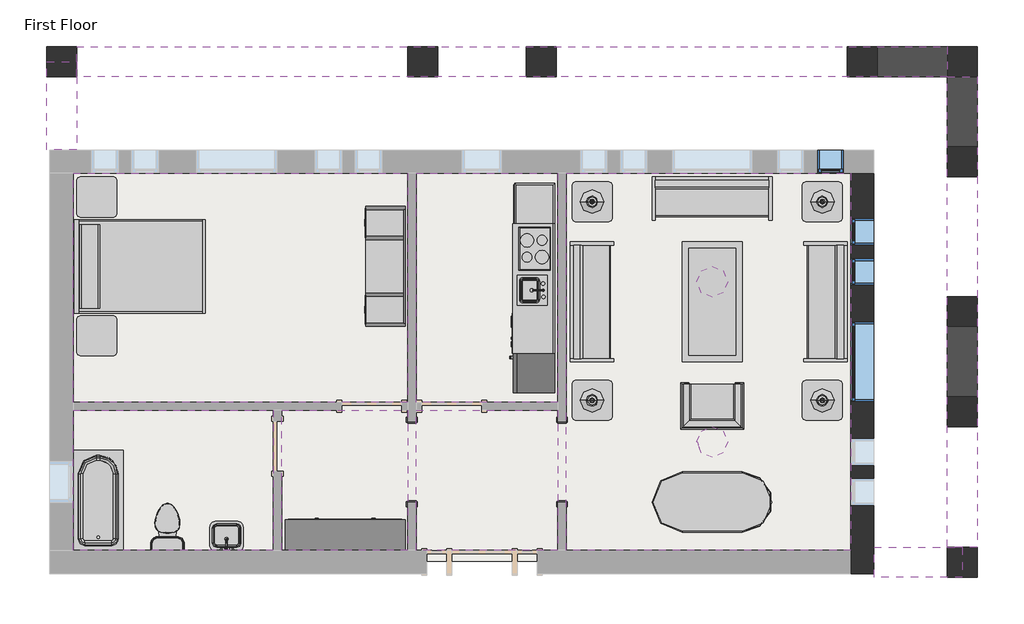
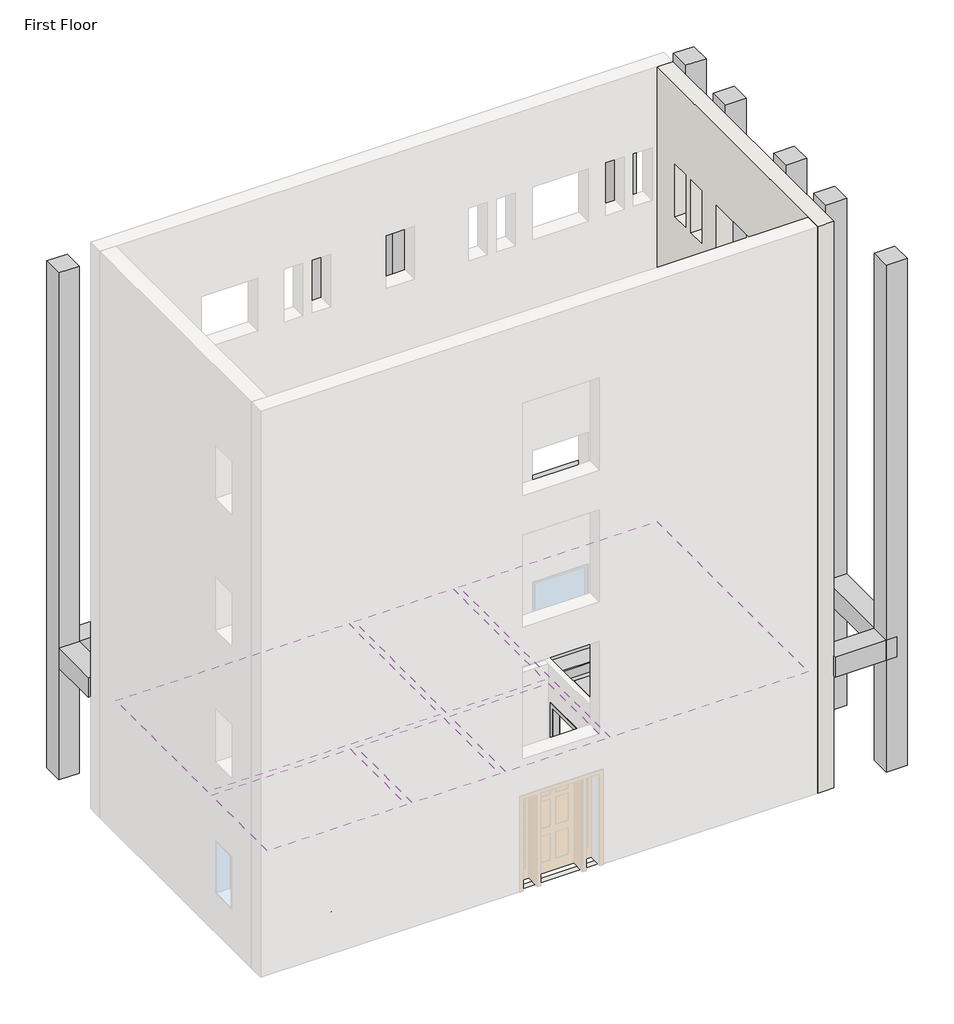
# One storey, part 2 of 2: 15 furniture elements, 9 columns, 7 beams, 6 coverings, 6 light fixtures, 4 windows, 3 flow terminals, 3 proxies, 2 other elements.
"""IFC4 building model written with IfcOpenShell, lengths in millimetres."""

from ifc_helpers import new_model, si_unit, frame, origin, origin_with_axes, place, context, project, spatial, polyline, outline, extrude, faceted_brep, transform, mapped, element, save
from components import proxy_64a468c4, proxy_f44482cc, flow_terminal_0aeb31e3, toilet_domestic_3d_toilet_domestic_3d_f7549cf7, toilet_domestic_3d_toilet_domestic_3d_183bbd19, tub_rectangular_3d_tub_rectangular_3d_5e45a89b, furniture_096e7f55, chair_corbu_chair_corbu_2764bdef, furniture_7c473f12, furniture_ddc78764, furniture_4ef38d96, furniture_cd93a443, furniture_2c34a4f9, furniture_3a588284, furniture_1befe2a2, pendant_disk_c68bffb6, table_lamp_1_100_watt_incandescent_6e8cd8b1, window_da97879f, window_d61ef850, window_6eb97611

model = new_model("IFC4")

# Units and contexts
model_context = context("Model", 3, world=origin())
ifc_project = project(units=[si_unit("LENGTHUNIT", "METRE", prefix="MILLI")], contexts=[model_context])

# Site, building, storey
site = spatial("IfcSite", under=ifc_project)
building = spatial("IfcBuilding", under=site)
storey = spatial("IfcBuildingStorey", under=building, Name="First Floor", Elevation=0.0)

# Beams
placement = place(None, origin())
element("IfcBeam", 1, ObjectType="Concrete-Rectangular Beam : 18 x 18", at=placement, inside=storey, context=model_context, shape_type="Brep", body=[
    faceted_brep([(2093.9410437, 11741.6316867, 3048.0), (2093.9410437, 12198.8316867, 3048.0), (-11164.8589563, 12198.8316867, 3048.0), (-11164.8589563, 11970.2316867, 3048.0), (-11164.8589563, 11741.6316867, 3048.0), (2093.9410437, 11741.6316867, 2590.8), (-11164.8589563, 11741.6316867, 2590.8), (2093.9410437, 12198.8316867, 2590.8), (-11164.8589563, 11970.2316867, 2590.8), (-11164.8589563, 12198.8316867, 2590.8)], [[[0, 1, 2, 3, 4]], [[5, 0, 4, 6]], [[7, 5, 6, 8, 9]], [[1, 7, 9, 2]], [[1, 0, 5, 7]], [[2, 9, 8, 6, 4, 3]]]),
])
element("IfcBeam", 2, ObjectType="Concrete-Rectangular Beam : 18 x 18", at=placement, inside=storey, context=model_context, shape_type="Brep", body=[
    faceted_brep([(2093.9410437, 4578.8316867, 3048.0), (2322.5410437, 4578.8316867, 3048.0), (2551.1410437, 4578.8316867, 3048.0), (2551.1410437, 11741.6316867, 3048.0), (2093.9410437, 11741.6316867, 3048.0), (2093.9410437, 4578.8316867, 2590.8), (2093.9410437, 11741.6316867, 2590.8), (2551.1410437, 4578.8316867, 2590.8), (2322.5410437, 4578.8316867, 2590.8), (2551.1410437, 11741.6316867, 2590.8)], [[[0, 1, 2, 3, 4]], [[5, 0, 4, 6]], [[7, 8, 5, 6, 9]], [[2, 7, 9, 3]], [[3, 9, 6, 4]], [[2, 1, 0, 5, 8, 7]]]),
])
element("IfcBeam", 3, ObjectType="Concrete-Rectangular Beam : 18 x 18", at=placement, inside=storey, context=model_context, shape_type="Brep", body=[
    faceted_brep([(-11164.8589563, 10624.0316867, 3048.0), (-11622.0589563, 10624.0316867, 3048.0), (-11622.0589563, 10624.0316867, 2590.8), (-11164.8589563, 10624.0316867, 2590.8), (-11164.8589563, 11741.6316867, 3048.0), (-11164.8589563, 11970.2316867, 3048.0), (-11622.0589563, 11970.2316867, 3048.0), (-11622.0589563, 11970.2316867, 2590.8), (-11164.8589563, 11970.2316867, 2590.8), (-11164.8589563, 11741.6316867, 2590.8)], [[[0, 1, 2, 3]], [[1, 0, 4, 5, 6]], [[2, 1, 6, 7]], [[3, 2, 7, 8, 9]], [[0, 3, 9, 8, 5, 4]], [[5, 8, 7, 6]]]),
])
element("IfcBeam", 4, ObjectType="Concrete-Rectangular Beam : 18 x 18", at=placement, inside=storey, context=model_context, shape_type="Brep", body=[
    faceted_brep([(976.3410437, 4121.6316867, 3048.0), (976.3410437, 4578.8316867, 3048.0), (976.3410437, 4578.8316867, 2590.8), (976.3410437, 4121.6316867, 2590.8), (2322.5410437, 4121.6316867, 3048.0), (2322.5410437, 4578.8316867, 3048.0), (2093.9410437, 4578.8316867, 3048.0), (2322.5410437, 4578.8316867, 2590.8), (2093.9410437, 4578.8316867, 2590.8), (2322.5410437, 4121.6316867, 2590.8)], [[[0, 1, 2, 3]], [[1, 0, 4, 5, 6]], [[2, 1, 6, 5, 7, 8]], [[3, 2, 8, 7, 9]], [[0, 3, 9, 4]], [[4, 9, 7, 5]]]),
])
element("IfcBeam", 5, ObjectType="Concrete-Rectangular Beam : 18 x 18", at=placement, inside=storey, context=model_context, shape_type="SweptSolid", body=[
    extrude(outline(polyline([(1027.1410437, 11741.6316867), (1027.1410437, 12198.8316867), (2093.9410437, 12198.8316867), (2093.9410437, 11741.6316867), (1027.1410437, 11741.6316867)])), frame((0.0, 0.0, 1066.8), z_axis=(0.0, 0.0, 1.0), x_axis=(1.0, 0.0, 0.0)), (0.0, 0.0, 1.0), 457.2),
])
element("IfcBeam", 6, ObjectType="Concrete-Rectangular Beam : 18 x 18", at=placement, inside=storey, context=model_context, shape_type="SweptSolid", body=[
    extrude(outline(polyline([(2551.1410437, 10674.8316867), (2093.9410437, 10674.8316867), (2093.9410437, 11741.6316867), (2551.1410437, 11741.6316867), (2551.1410437, 10674.8316867)])), frame((0.0, 0.0, 1066.8), z_axis=(0.0, 0.0, 1.0), x_axis=(1.0, 0.0, 0.0)), (0.0, 0.0, 1.0), 457.2),
])
element("IfcBeam", 7, ObjectType="Concrete-Rectangular Beam : 18 x 18", at=placement, inside=storey, context=model_context, shape_type="SweptSolid", body=[
    extrude(outline(polyline([(2551.1410437, 6864.8316867), (2093.9410437, 6864.8316867), (2093.9410437, 7931.6316867), (2551.1410437, 7931.6316867), (2551.1410437, 6864.8316867)])), frame((0.0, 0.0, 1066.8), z_axis=(0.0, 0.0, 1.0), x_axis=(1.0, 0.0, 0.0)), (0.0, 0.0, 1.0), 457.2),
])

# Proxies
proxy_shape = proxy_64a468c4(model_context)
element("IfcBuildingElementProxy", 8, Name="Kitchenette - Medium : 8'6\"", ObjectType="Kitchenette - Medium : 8'6\"", at=placement, inside=storey, context=model_context, shape_type="MappedRepresentation", body=[
    mapped(proxy_shape, transform((-3887.7589563, 8837.7956433, 0.0), x_axis=(0.0, -1.0, 0.0), y_axis=(1.0, 0.0, 0.0), z_axis=(0.0, 0.0, 1.0))),
])
proxy_2_shape = proxy_f44482cc(model_context)
element("IfcBuildingElementProxy", 9, Name="Opening-Cased : 48\" x 84\"", ObjectType="Opening-Cased : 48\" x 84\"", at=placement, inside=storey, context=model_context, shape_type="MappedRepresentation", body=[
    mapped(proxy_2_shape, transform((-3773.4589563, 5882.4203434, 0.0), x_axis=(0.0, 1.0, 0.0), y_axis=(-1.0, 0.0, 0.0), z_axis=(0.0, 0.0, 1.0))),
])
element("IfcBuildingElementProxy", 10, Name="Opening-Cased : 48\" x 84\"", ObjectType="Opening-Cased : 48\" x 84\"", at=placement, inside=storey, context=model_context, shape_type="MappedRepresentation", body=[
    mapped(proxy_2_shape, transform((-6059.4589563, 5866.04303, 0.0), x_axis=(0.0, -1.0, 0.0), y_axis=(1.0, 0.0, 0.0), z_axis=(0.0, 0.0, 1.0))),
])

# Columns
element("IfcColumn", 11, ObjectType="Concrete-Square-Column : 18 x 18", at=placement, inside=storey, context=model_context, shape_type="Brep", body=[
    faceted_brep([(1027.1410437, 12198.8316867, 11734.8), (569.9410437, 12198.8316867, 11734.8), (569.9410437, 11741.6316867, 11734.8), (1027.1410437, 11741.6316867, 11734.8), (1027.1410437, 12198.8316867, 0.0), (1027.1410437, 11741.6316867, 0.0), (569.9410437, 11741.6316867, 0.0), (569.9410437, 12198.8316867, 0.0), (1027.1410437, 12198.8316867, 9144.0), (1027.1410437, 12198.8316867, 8686.8), (1027.1410437, 12198.8316867, 6096.0), (1027.1410437, 12198.8316867, 5638.8), (569.9410437, 12198.8316867, 5638.8), (569.9410437, 12198.8316867, 6096.0), (569.9410437, 12198.8316867, 8686.8), (569.9410437, 12198.8316867, 9144.0), (569.9410437, 11741.6316867, 5638.8), (569.9410437, 11741.6316867, 6096.0), (569.9410437, 11741.6316867, 8686.8), (569.9410437, 11741.6316867, 9144.0), (1027.1410437, 11741.6316867, 5638.8), (1027.1410437, 11741.6316867, 6096.0), (1027.1410437, 11741.6316867, 8686.8), (1027.1410437, 11741.6316867, 9144.0)], [[[0, 1, 2, 3]], [[4, 5, 6, 7]], [[1, 0, 8, 9, 10, 11, 4, 7, 12, 13, 14, 15]], [[2, 1, 15, 14, 13, 12, 7, 6, 16, 17, 18, 19]], [[3, 2, 19, 18, 17, 16, 6, 5, 20, 21, 22, 23]], [[0, 3, 23, 22, 21, 20, 5, 4, 11, 10, 9, 8]]]),
])
element("IfcColumn", 12, ObjectType="Concrete-Square-Column : 18 x 18", at=placement, inside=storey, context=model_context, shape_type="Brep", body=[
    faceted_brep([(2551.1410437, 10674.8316867, 11734.8), (2093.9410437, 10674.8316867, 11734.8), (2093.9410437, 10217.6316867, 11734.8), (2551.1410437, 10217.6316867, 11734.8), (2551.1410437, 10674.8316867, 0.0), (2551.1410437, 10217.6316867, 0.0), (2093.9410437, 10217.6316867, 0.0), (2093.9410437, 10674.8316867, 0.0), (2551.1410437, 10217.6316867, 9144.0), (2551.1410437, 10217.6316867, 8686.8), (2551.1410437, 10217.6316867, 6096.0), (2551.1410437, 10217.6316867, 5638.8), (2551.1410437, 10674.8316867, 5638.8), (2551.1410437, 10674.8316867, 6096.0), (2551.1410437, 10674.8316867, 8686.8), (2551.1410437, 10674.8316867, 9144.0), (2093.9410437, 10217.6316867, 9144.0), (2093.9410437, 10217.6316867, 8686.8), (2093.9410437, 10217.6316867, 6096.0), (2093.9410437, 10217.6316867, 5638.8), (2093.9410437, 10674.8316867, 9144.0), (2093.9410437, 10674.8316867, 8686.8), (2093.9410437, 10674.8316867, 6096.0), (2093.9410437, 10674.8316867, 5638.8)], [[[0, 1, 2, 3]], [[4, 5, 6, 7]], [[3, 8, 9, 10, 11, 5, 4, 12, 13, 14, 15, 0]], [[2, 16, 17, 18, 19, 6, 5, 11, 10, 9, 8, 3]], [[1, 20, 21, 22, 23, 7, 6, 19, 18, 17, 16, 2]], [[0, 15, 14, 13, 12, 4, 7, 23, 22, 21, 20, 1]]]),
])
element("IfcColumn", 13, ObjectType="Concrete-Square-Column : 18 x 18", at=placement, inside=storey, context=model_context, shape_type="SweptSolid", body=[
    extrude(outline(polyline([(-11164.8589563, 12198.8316867), (-11164.8589563, 11741.6316867), (-11622.0589563, 11741.6316867), (-11622.0589563, 12198.8316867), (-11164.8589563, 12198.8316867)])), origin_with_axes(), (0.0, 0.0, 1.0), 11734.8),
])
element("IfcColumn", 14, ObjectType="Concrete-Square-Column : 18 x 18", at=placement, inside=storey, context=model_context, shape_type="SweptSolid", body=[
    extrude(outline(polyline([(2551.1410437, 4578.8316867), (2551.1410437, 4121.6316867), (2093.9410437, 4121.6316867), (2093.9410437, 4578.8316867), (2551.1410437, 4578.8316867)])), origin_with_axes(), (0.0, 0.0, 1.0), 11734.8),
])
element("IfcColumn", 15, ObjectType="Concrete-Square-Column : 18 x 18", at=placement, inside=storey, context=model_context, shape_type="SweptSolid", body=[
    extrude(outline(polyline([(2551.1410437, 12198.8316867), (2551.1410437, 11741.6316867), (2093.9410437, 11741.6316867), (2093.9410437, 12198.8316867), (2551.1410437, 12198.8316867)])), origin_with_axes(), (0.0, 0.0, 1.0), 11734.8),
])
element("IfcColumn", 16, ObjectType="Concrete-Square-Column : 18 x 18", at=placement, inside=storey, context=model_context, shape_type="Brep", body=[
    faceted_brep([(-3862.3589563, 12198.8316867, 11734.8), (-4319.5589563, 12198.8316867, 11734.8), (-4319.5589563, 11741.6316867, 11734.8), (-3862.3589563, 11741.6316867, 11734.8), (-3862.3589563, 12198.8316867, 0.0), (-3862.3589563, 11741.6316867, 0.0), (-4319.5589563, 11741.6316867, 0.0), (-4319.5589563, 12198.8316867, 0.0), (-3862.3589563, 12198.8316867, 9144.0), (-3862.3589563, 12198.8316867, 8686.8), (-3862.3589563, 12198.8316867, 6096.0), (-3862.3589563, 12198.8316867, 5638.8), (-4319.5589563, 12198.8316867, 5638.8), (-4319.5589563, 12198.8316867, 6096.0), (-4319.5589563, 12198.8316867, 8686.8), (-4319.5589563, 12198.8316867, 9144.0), (-4319.5589563, 11741.6316867, 5638.8), (-4319.5589563, 11741.6316867, 6096.0), (-4319.5589563, 11741.6316867, 8686.8), (-4319.5589563, 11741.6316867, 9144.0), (-3862.3589563, 11741.6316867, 5638.8), (-3862.3589563, 11741.6316867, 6096.0), (-3862.3589563, 11741.6316867, 8686.8), (-3862.3589563, 11741.6316867, 9144.0)], [[[0, 1, 2, 3]], [[4, 5, 6, 7]], [[1, 0, 8, 9, 10, 11, 4, 7, 12, 13, 14, 15]], [[2, 1, 15, 14, 13, 12, 7, 6, 16, 17, 18, 19]], [[3, 2, 19, 18, 17, 16, 6, 5, 20, 21, 22, 23]], [[0, 3, 23, 22, 21, 20, 5, 4, 11, 10, 9, 8]]]),
])
element("IfcColumn", 17, ObjectType="Concrete-Square-Column : 18 x 18", at=placement, inside=storey, context=model_context, shape_type="Brep", body=[
    faceted_brep([(-6122.9589563, 12198.8316867, 11734.8), (-6122.9589563, 11741.6316867, 11734.8), (-5665.7589563, 11741.6316867, 11734.8), (-5665.7589563, 12198.8316867, 11734.8), (-6122.9589563, 12198.8316867, 0.0), (-5665.7589563, 12198.8316867, 0.0), (-5665.7589563, 11741.6316867, 0.0), (-6122.9589563, 11741.6316867, 0.0), (-5665.7589563, 12198.8316867, 9144.0), (-5665.7589563, 12198.8316867, 8686.8), (-5665.7589563, 12198.8316867, 6096.0), (-5665.7589563, 12198.8316867, 5638.8), (-6122.9589563, 12198.8316867, 5638.8), (-6122.9589563, 12198.8316867, 6096.0), (-6122.9589563, 12198.8316867, 8686.8), (-6122.9589563, 12198.8316867, 9144.0), (-5665.7589563, 11741.6316867, 9144.0), (-5665.7589563, 11741.6316867, 8686.8), (-5665.7589563, 11741.6316867, 6096.0), (-5665.7589563, 11741.6316867, 5638.8), (-6122.9589563, 11741.6316867, 9144.0), (-6122.9589563, 11741.6316867, 8686.8), (-6122.9589563, 11741.6316867, 6096.0), (-6122.9589563, 11741.6316867, 5638.8)], [[[0, 1, 2, 3]], [[4, 5, 6, 7]], [[3, 8, 9, 10, 11, 5, 4, 12, 13, 14, 15, 0]], [[2, 16, 17, 18, 19, 6, 5, 11, 10, 9, 8, 3]], [[1, 20, 21, 22, 23, 7, 6, 19, 18, 17, 16, 2]], [[0, 15, 14, 13, 12, 4, 7, 23, 22, 21, 20, 1]]]),
])
element("IfcColumn", 18, ObjectType="Concrete-Square-Column : 18 x 18", at=placement, inside=storey, context=model_context, shape_type="Brep", body=[
    faceted_brep([(2551.1410437, 6864.8316867, 11734.8), (2093.9410437, 6864.8316867, 11734.8), (2093.9410437, 6407.6316867, 11734.8), (2551.1410437, 6407.6316867, 11734.8), (2551.1410437, 6864.8316867, 0.0), (2551.1410437, 6407.6316867, 0.0), (2093.9410437, 6407.6316867, 0.0), (2093.9410437, 6864.8316867, 0.0), (2551.1410437, 6407.6316867, 9144.0), (2551.1410437, 6407.6316867, 8686.8), (2551.1410437, 6407.6316867, 6096.0), (2551.1410437, 6407.6316867, 5638.8), (2551.1410437, 6864.8316867, 5638.8), (2551.1410437, 6864.8316867, 6096.0), (2551.1410437, 6864.8316867, 8686.8), (2551.1410437, 6864.8316867, 9144.0), (2093.9410437, 6407.6316867, 9144.0), (2093.9410437, 6407.6316867, 8686.8), (2093.9410437, 6407.6316867, 6096.0), (2093.9410437, 6407.6316867, 5638.8), (2093.9410437, 6864.8316867, 9144.0), (2093.9410437, 6864.8316867, 8686.8), (2093.9410437, 6864.8316867, 6096.0), (2093.9410437, 6864.8316867, 5638.8)], [[[0, 1, 2, 3]], [[4, 5, 6, 7]], [[3, 8, 9, 10, 11, 5, 4, 12, 13, 14, 15, 0]], [[2, 16, 17, 18, 19, 6, 5, 11, 10, 9, 8, 3]], [[1, 20, 21, 22, 23, 7, 6, 19, 18, 17, 16, 2]], [[0, 15, 14, 13, 12, 4, 7, 23, 22, 21, 20, 1]]]),
])
element("IfcColumn", 19, ObjectType="Concrete-Square-Column : 18 x 18", at=placement, inside=storey, context=model_context, shape_type="Brep", body=[
    faceted_brep([(2551.1410437, 8388.8316867, 11734.8), (2093.9410437, 8388.8316867, 11734.8), (2093.9410437, 7931.6316867, 11734.8), (2551.1410437, 7931.6316867, 11734.8), (2551.1410437, 8388.8316867, 0.0), (2551.1410437, 7931.6316867, 0.0), (2093.9410437, 7931.6316867, 0.0), (2093.9410437, 8388.8316867, 0.0), (2551.1410437, 8388.8316867, 9144.0), (2551.1410437, 8388.8316867, 8686.8), (2551.1410437, 8388.8316867, 6096.0), (2551.1410437, 8388.8316867, 5638.8), (2093.9410437, 8388.8316867, 5638.8), (2093.9410437, 8388.8316867, 6096.0), (2093.9410437, 8388.8316867, 8686.8), (2093.9410437, 8388.8316867, 9144.0), (2093.9410437, 7931.6316867, 5638.8), (2093.9410437, 7931.6316867, 6096.0), (2093.9410437, 7931.6316867, 8686.8), (2093.9410437, 7931.6316867, 9144.0), (2551.1410437, 7931.6316867, 5638.8), (2551.1410437, 7931.6316867, 6096.0), (2551.1410437, 7931.6316867, 8686.8), (2551.1410437, 7931.6316867, 9144.0)], [[[0, 1, 2, 3]], [[4, 5, 6, 7]], [[1, 0, 8, 9, 10, 11, 4, 7, 12, 13, 14, 15]], [[2, 1, 15, 14, 13, 12, 7, 6, 16, 17, 18, 19]], [[3, 2, 19, 18, 17, 16, 6, 5, 20, 21, 22, 23]], [[0, 3, 23, 22, 21, 20, 5, 4, 11, 10, 9, 8]]]),
])

# Coverings
element("IfcCovering", 20, ObjectType="GWB on Mtl. Stud", at=placement, inside=storey, context=model_context, shape_type="SweptSolid", body=[
    extrude(outline(polyline([(-11217.2464563, 10270.0191867), (-6122.9589563, 10270.0191867), (-6122.9589563, 6787.0441867), (-11217.2464563, 6787.0441867), (-11217.2464563, 10270.0191867)])), frame((0.0, 0.0, 2590.8), z_axis=(0.0, 0.0, 1.0), x_axis=(1.0, 0.0, 0.0)), (0.0, 0.0, 1.0), 107.95),
])
element("IfcCovering", 21, ObjectType="GWB on Mtl. Stud", at=placement, inside=storey, context=model_context, shape_type="SweptSolid", body=[
    extrude(outline(polyline([(-5995.9589563, 6787.0441867), (-5995.9589563, 10270.0191867), (-3836.9589563, 10270.0191867), (-3836.9589563, 6787.0441867), (-5995.9589563, 6787.0441867)])), frame((0.0, 0.0, 2590.8), z_axis=(0.0, 0.0, 1.0), x_axis=(1.0, 0.0, 0.0)), (0.0, 0.0, 1.0), 107.95),
])
element("IfcCovering", 22, ObjectType="GWB on Mtl. Stud", at=placement, inside=storey, context=model_context, shape_type="SweptSolid", body=[
    extrude(outline(polyline([(-3709.9589563, 4526.4441867), (-3709.9589563, 10270.0191867), (622.3285437, 10270.0191867), (622.3285437, 4526.4441867), (-3709.9589563, 4526.4441867)])), frame((0.0, 0.0, 2590.8), z_axis=(0.0, 0.0, 1.0), x_axis=(1.0, 0.0, 0.0)), (0.0, 0.0, 1.0), 107.95),
])
element("IfcCovering", 23, ObjectType="GWB on Mtl. Stud", at=placement, inside=storey, context=model_context, shape_type="SweptSolid", body=[
    extrude(outline(polyline([(-3836.9589563, 4526.4441867), (-5995.9589563, 4526.4441867), (-5995.9589563, 6660.0441867), (-3836.9589563, 6660.0441867), (-3836.9589563, 4526.4441867)])), frame((0.0, 0.0, 2590.8), z_axis=(0.0, 0.0, 1.0), x_axis=(1.0, 0.0, 0.0)), (0.0, 0.0, 1.0), 107.95),
])
element("IfcCovering", 24, ObjectType="GWB on Mtl. Stud", at=placement, inside=storey, context=model_context, shape_type="SweptSolid", body=[
    extrude(outline(polyline([(-6122.9589563, 4526.4441867), (-8042.2464563, 4526.4441867), (-8042.2464563, 6660.0441867), (-6122.9589563, 6660.0441867), (-6122.9589563, 4526.4441867)])), frame((0.0, 0.0, 2590.8), z_axis=(0.0, 0.0, 1.0), x_axis=(1.0, 0.0, 0.0)), (0.0, 0.0, 1.0), 107.95),
])
element("IfcCovering", 25, ObjectType="GWB on Mtl. Stud", at=placement, inside=storey, context=model_context, shape_type="SweptSolid", body=[
    extrude(outline(polyline([(-8169.2464563, 6660.0441867), (-8169.2464563, 4526.4441867), (-11217.2464563, 4526.4441867), (-11217.2464563, 6660.0441867), (-8169.2464563, 6660.0441867)])), frame((0.0, 0.0, 2590.8), z_axis=(0.0, 0.0, 1.0), x_axis=(1.0, 0.0, 0.0)), (0.0, 0.0, 1.0), 107.95),
])

# Flow terminals
flow_terminal_shape = flow_terminal_0aeb31e3(model_context)
element("IfcFlowTerminal", 26, ObjectType="Sink Vanity-Square : 24\" x 19\"", at=placement, inside=storey, context=model_context, shape_type="MappedRepresentation", body=[
    mapped(flow_terminal_shape, transform((-8864.7572157, 4706.5895878, 0.0), x_axis=(-1.0, 0.0, 0.0), y_axis=(0.0, -1.0, 0.0), z_axis=(0.0, 0.0, 1.0))),
])
toilet_domestic_3d_toilet_domestic_3d_shape = toilet_domestic_3d_toilet_domestic_3d_f7549cf7(model_context)
toilet_domestic_3d_toilet_domestic_3d_2_shape = toilet_domestic_3d_toilet_domestic_3d_183bbd19(model_context)
element("IfcFlowTerminal", 27, ObjectType="Toilet-Domestic-3D : Toilet-Domestic-3D", at=placement, inside=storey, context=model_context, shape_type="MappedRepresentation", body=[
    mapped(toilet_domestic_3d_toilet_domestic_3d_shape, transform((-9782.1466587, 4940.866411, 0.0), x_axis=(-1.0000000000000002, 0.0, 0.0), y_axis=(0.0, -1.0000000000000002, 0.0), z_axis=(0.0, 0.0, 1.0))),
    mapped(toilet_domestic_3d_toilet_domestic_3d_2_shape, transform((-9782.1466587, 4940.866411, 0.0), x_axis=(-1.0000000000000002, 0.0, 0.0), y_axis=(0.0, -1.0000000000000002, 0.0), z_axis=(0.0, 0.0, 1.0))),
])
tub_rectangular_3d_tub_rectangular_3d_shape = tub_rectangular_3d_tub_rectangular_3d_5e45a89b(model_context)
element("IfcFlowTerminal", 28, ObjectType="Tub-Rectangular-3D : Tub-Rectangular-3D", at=placement, inside=storey, context=model_context, shape_type="MappedRepresentation", body=[
    mapped(tub_rectangular_3d_tub_rectangular_3d_shape, transform((-11393.4589563, 5637.0471554, 0.0), x_axis=(0.0, 1.0, 0.0), y_axis=(-1.0, 0.0, 0.0), z_axis=(0.0, 0.0, 1.0))),
])

# Furniture
furniture_shape = furniture_096e7f55(model_context)
element("IfcFurniture", 29, ObjectType="Bed-Shaker : Double 56\" x 78\"", at=placement, inside=storey, context=model_context, shape_type="MappedRepresentation", body=[
    mapped(furniture_shape, transform((-11183.1982802, 8871.8755561, 0.0), x_axis=(0.0, 1.0, 0.0), y_axis=(-1.0, 0.0, 0.0), z_axis=(0.0, 0.0, 1.0))),
])
chair_corbu_chair_corbu_shape = chair_corbu_chair_corbu_2764bdef(model_context)
element("IfcFurniture", 30, ObjectType="Chair-Corbu : Chair-Corbu", at=placement, inside=storey, context=model_context, shape_type="MappedRepresentation", body=[
    mapped(chair_corbu_chair_corbu_shape, transform((-914.0851858, 7193.4962359, 0.0), x_axis=(-1.0, 0.0, 0.0), y_axis=(0.0, -1.0, 0.0), z_axis=(0.0, 0.0, 1.0))),
])
furniture_2_shape = furniture_7c473f12(model_context)
element("IfcFurniture", 31, ObjectType="Dresser : 72\" x 60\" x 18\"", at=placement, inside=storey, context=model_context, shape_type="MappedRepresentation", body=[
    mapped(furniture_2_shape, transform((-7344.6522161, 4404.5812326, 0.0), x_axis=(-1.0, 0.0, 0.0), y_axis=(0.0, -1.0, 0.0), z_axis=(0.0, 0.0, 1.0))),
])
furniture_3_shape = furniture_ddc78764(model_context)
element("IfcFurniture", 32, ObjectType="Entertainment Center : 72\" x 72\" x 24\"", at=placement, inside=storey, context=model_context, shape_type="MappedRepresentation", body=[
    mapped(furniture_3_shape, transform((-6059.4589563, 8852.8255561, 0.0), x_axis=(0.0, -1.0, 0.0), y_axis=(1.0, 0.0, 0.0), z_axis=(0.0, 0.0, 1.0))),
])
furniture_4_shape = furniture_4ef38d96(model_context)
element("IfcFurniture", 33, ObjectType="Sofa : 72\"", at=placement, inside=storey, context=model_context, shape_type="MappedRepresentation", body=[
    mapped(furniture_4_shape, transform((-1557.8294481, 9741.2775883, 0.0), x_axis=(1.0, 0.0, 0.0), y_axis=(0.0, 1.0, 0.0), z_axis=(0.0, 0.0, 1.0))),
])
element("IfcFurniture", 34, ObjectType="Sofa : 72\"", at=placement, inside=storey, context=model_context, shape_type="MappedRepresentation", body=[
    mapped(furniture_4_shape, transform((93.5869453, 8383.0021785, 0.0), x_axis=(0.0, -1.0, 0.0), y_axis=(1.0, 0.0, 0.0), z_axis=(0.0, 0.0, 1.0))),
])
element("IfcFurniture", 35, ObjectType="Sofa : 72\"", at=placement, inside=storey, context=model_context, shape_type="MappedRepresentation", body=[
    mapped(furniture_4_shape, transform((-3170.104858, 8242.2611949, 0.0), x_axis=(0.0, 1.0, 0.0), y_axis=(-1.0, 0.0, 0.0), z_axis=(0.0, 0.0, 1.0))),
])
furniture_5_shape = furniture_cd93a443(model_context)
element("IfcFurniture", 36, ObjectType="Table-Coffee : 36\" x 72\" x 18\"", at=placement, inside=storey, context=model_context, shape_type="MappedRepresentation", body=[
    mapped(furniture_5_shape, transform((-1582.6700341, 8330.8974534, 0.0), x_axis=(0.0, -1.0, 0.0), y_axis=(1.0, 0.0, 0.0), z_axis=(0.0, 0.0, 1.0))),
])
furniture_6_shape = furniture_2c34a4f9(model_context)
element("IfcFurniture", 37, ObjectType="Table-Dining Oval : 36\" x 72\"", at=placement, inside=storey, context=model_context, shape_type="MappedRepresentation", body=[
    mapped(furniture_6_shape, transform((-1085.6392842, 5622.7300473, 0.0), x_axis=(1.0, 0.0, 0.0), y_axis=(0.0, 1.0, 0.0), z_axis=(0.0, 0.0, 1.0))),
])
furniture_7_shape = furniture_3a588284(model_context)
element("IfcFurniture", 38, ObjectType="Table-End : 24\" x 24\"", at=placement, inside=storey, context=model_context, shape_type="MappedRepresentation", body=[
    mapped(furniture_7_shape, transform((-119.5925866, 9684.2316867, 0.0), x_axis=(1.0, 0.0, 0.0), y_axis=(0.0, 1.0, 0.0), z_axis=(0.0, 0.0, 1.0))),
])
element("IfcFurniture", 39, ObjectType="Table-End : 24\" x 24\"", at=placement, inside=storey, context=model_context, shape_type="MappedRepresentation", body=[
    mapped(furniture_7_shape, transform((-3624.7925866, 9684.2316867, 0.0), x_axis=(1.0, 0.0, 0.0), y_axis=(0.0, 1.0, 0.0), z_axis=(0.0, 0.0, 1.0))),
])
element("IfcFurniture", 40, ObjectType="Table-End : 24\" x 24\"", at=placement, inside=storey, context=model_context, shape_type="MappedRepresentation", body=[
    mapped(furniture_7_shape, transform((-3624.7925866, 6660.0441867, 0.0), x_axis=(1.0, 0.0, 0.0), y_axis=(0.0, 1.0, 0.0), z_axis=(0.0, 0.0, 1.0))),
])
element("IfcFurniture", 41, ObjectType="Table-End : 24\" x 24\"", at=placement, inside=storey, context=model_context, shape_type="MappedRepresentation", body=[
    mapped(furniture_7_shape, transform((-119.5925866, 6660.0441867, 0.0), x_axis=(1.0, 0.0, 0.0), y_axis=(0.0, 1.0, 0.0), z_axis=(0.0, 0.0, 1.0))),
])
element("IfcFurniture", 42, ObjectType="Table-End : 24\" x 24\"", at=placement, inside=storey, context=model_context, shape_type="MappedRepresentation", body=[
    mapped(furniture_7_shape, transform((-11164.2346356, 9756.0737357, 0.0), x_axis=(1.0, 0.0, 0.0), y_axis=(0.0, 1.0, 0.0), z_axis=(0.0, 0.0, 1.0))),
])
furniture_8_shape = furniture_1befe2a2(model_context)
element("IfcFurniture", 43, ObjectType="Table-End : 24\" x 24\"", at=placement, inside=storey, context=model_context, shape_type="MappedRepresentation", body=[
    mapped(furniture_8_shape, transform((-11164.2346356, 7949.5773764, 0.0), x_axis=(1.0, 0.0, 0.0), y_axis=(0.0, 1.0, 0.0), z_axis=(0.0, 0.0, 1.0))),
])

# Light fixtures
pendant_disk_shape = pendant_disk_c68bffb6(model_context)
element("IfcLightFixture", 44, ObjectType="Pendant - Disk : 150 watt Incandescant", at=placement, inside=storey, context=model_context, shape_type="MappedRepresentation", body=[
    mapped(pendant_disk_shape, transform((-1487.4589563, 8617.4316867, 152.3999938), x_axis=(1.0, 0.0, 0.0), y_axis=(0.0, 1.0, 0.0), z_axis=(0.0, 0.0, 1.0))),
])
element("IfcLightFixture", 45, ObjectType="Pendant - Disk : 150 watt Incandescant", at=placement, inside=storey, context=model_context, shape_type="MappedRepresentation", body=[
    mapped(pendant_disk_shape, transform((-1487.4589563, 6179.0316867, 152.3999938), x_axis=(1.0, 0.0, 0.0), y_axis=(0.0, 1.0, 0.0), z_axis=(0.0, 0.0, 1.0))),
])
table_lamp_1_100_watt_incandescent_shape = table_lamp_1_100_watt_incandescent_6e8cd8b1(model_context)
element("IfcLightFixture", 46, ObjectType="Table Lamp 1 : 100 watt Incandescent", at=placement, inside=storey, context=model_context, shape_type="MappedRepresentation", body=[
    mapped(table_lamp_1_100_watt_incandescent_shape, transform((188.9410437, 6812.4441867, 381.0), x_axis=(1.0, 0.0, 0.0), y_axis=(0.0, 1.0, 0.0), z_axis=(0.0, 0.0, 1.0))),
])
element("IfcLightFixture", 47, ObjectType="Table Lamp 1 : 100 watt Incandescent", at=placement, inside=storey, context=model_context, shape_type="MappedRepresentation", body=[
    mapped(table_lamp_1_100_watt_incandescent_shape, transform((-3316.2589563, 9836.6316867, 381.0), x_axis=(1.0, 0.0, 0.0), y_axis=(0.0, 1.0, 0.0), z_axis=(0.0, 0.0, 1.0))),
])
element("IfcLightFixture", 48, ObjectType="Table Lamp 1 : 100 watt Incandescent", at=placement, inside=storey, context=model_context, shape_type="MappedRepresentation", body=[
    mapped(table_lamp_1_100_watt_incandescent_shape, transform((188.9410437, 9836.6316867, 381.0), x_axis=(1.0, 0.0, 0.0), y_axis=(0.0, 1.0, 0.0), z_axis=(0.0, 0.0, 1.0))),
])
element("IfcLightFixture", 49, ObjectType="Table Lamp 1 : 100 watt Incandescent", at=placement, inside=storey, context=model_context, shape_type="MappedRepresentation", body=[
    mapped(table_lamp_1_100_watt_incandescent_shape, transform((-3316.2589563, 6812.4441867, 381.0), x_axis=(1.0, 0.0, 0.0), y_axis=(0.0, 1.0, 0.0), z_axis=(0.0, 0.0, 1.0))),
])

# Slab
element("IfcSlab", 50, ObjectType="LW Concrete on Metal Deck", at=placement, inside=storey, context=model_context, shape_type="SweptSolid", body=[
    extrude(outline(polyline([(787.4285437, 10435.1191867), (787.4285437, 4361.3441867), (-11382.3464563, 4361.3441867), (-11382.3464563, 10435.1191867), (787.4285437, 10435.1191867)])), frame((0.0, 0.0, -104.775), z_axis=(0.0, 0.0, 1.0), x_axis=(1.0, 0.0, 0.0)), (0.0, 0.0, 1.0), 104.775),
])

# Wall
element("IfcWall", 51, ObjectType="Exterior - Brick on Mtl. Stud", at=placement, inside=storey, context=model_context, shape_type="Brep", body=[
    faceted_brep([(622.3285437, 10270.0191867, 13106.4), (622.3285437, 4526.4441867, 13106.4), (622.3285437, 4174.0191867, 13106.4), (974.7535437, 4174.0191867, 13106.4), (974.7535437, 10270.0191867, 13106.4), (622.3285437, 10270.0191867, 0.0), (622.3285437, 4526.4441867, 0.0), (622.3285437, 4361.3441867, 0.0), (622.3285437, 4174.0191867, 0.0), (622.3285437, 5823.4316867, 8229.6), (622.3285437, 5823.4316867, 7010.4), (622.3285437, 6229.8316867, 7010.4), (622.3285437, 6229.8316867, 8229.6), (622.3285437, 5213.8316867, 8229.6), (622.3285437, 5213.8316867, 7010.4), (622.3285437, 5620.2316867, 7010.4), (622.3285437, 5620.2316867, 8229.6), (622.3285437, 8973.0316867, 8229.6), (622.3285437, 8566.6316867, 8229.6), (622.3285437, 8566.6316867, 7010.4), (622.3285437, 8973.0316867, 7010.4), (622.3285437, 9582.6316867, 8229.6), (622.3285437, 9176.2316867, 8229.6), (622.3285437, 9176.2316867, 7010.4), (622.3285437, 9582.6316867, 7010.4), (622.3285437, 8007.8316867, 8229.6), (622.3285437, 6788.6316867, 8229.6), (622.3285437, 6788.6316867, 7010.4), (622.3285437, 8007.8316867, 7010.4), (622.3285437, 5823.4316867, 5181.6), (622.3285437, 5823.4316867, 3962.4), (622.3285437, 6229.8316867, 3962.4), (622.3285437, 6229.8316867, 5181.6), (622.3285437, 5213.8316867, 5181.6), (622.3285437, 5213.8316867, 3962.4), (622.3285437, 5620.2316867, 3962.4), (622.3285437, 5620.2316867, 5181.6), (622.3285437, 8973.0316867, 5181.6), (622.3285437, 8566.6316867, 5181.6), (622.3285437, 8566.6316867, 3962.4), (622.3285437, 8973.0316867, 3962.4), (622.3285437, 9582.6316867, 5181.6), (622.3285437, 9176.2316867, 5181.6), (622.3285437, 9176.2316867, 3962.4), (622.3285437, 9582.6316867, 3962.4), (622.3285437, 8007.8316867, 5181.6), (622.3285437, 6788.6316867, 5181.6), (622.3285437, 6788.6316867, 3962.4), (622.3285437, 8007.8316867, 3962.4), (622.3285437, 5823.4316867, 11277.6), (622.3285437, 5823.4316867, 10058.4), (622.3285437, 6229.8316867, 10058.4), (622.3285437, 6229.8316867, 11277.6), (622.3285437, 5213.8316867, 11277.6), (622.3285437, 5213.8316867, 10058.4), (622.3285437, 5620.2316867, 10058.4), (622.3285437, 5620.2316867, 11277.6), (622.3285437, 8973.0316867, 11277.6), (622.3285437, 8566.6316867, 11277.6), (622.3285437, 8566.6316867, 10058.4), (622.3285437, 8973.0316867, 10058.4), (622.3285437, 9582.6316867, 11277.6), (622.3285437, 9176.2316867, 11277.6), (622.3285437, 9176.2316867, 10058.4), (622.3285437, 9582.6316867, 10058.4), (622.3285437, 8007.8316867, 11277.6), (622.3285437, 6788.6316867, 11277.6), (622.3285437, 6788.6316867, 10058.4), (622.3285437, 8007.8316867, 10058.4), (622.3285437, 5823.4316867, 2133.6), (622.3285437, 5823.4316867, 914.4), (622.3285437, 6229.8316867, 914.4), (622.3285437, 6229.8316867, 2133.6), (622.3285437, 5213.8316867, 2133.6), (622.3285437, 5213.8316867, 914.4), (622.3285437, 5620.2316867, 914.4), (622.3285437, 5620.2316867, 2133.6), (622.3285437, 8973.0316867, 2133.6), (622.3285437, 8566.6316867, 2133.6), (622.3285437, 8566.6316867, 914.4), (622.3285437, 8973.0316867, 914.4), (622.3285437, 9582.6316867, 2133.6), (622.3285437, 9176.2316867, 2133.6), (622.3285437, 9176.2316867, 914.4), (622.3285437, 9582.6316867, 914.4), (622.3285437, 8007.8316867, 2133.6), (622.3285437, 6788.6316867, 2133.6), (622.3285437, 6788.6316867, 914.4), (622.3285437, 8007.8316867, 914.4), (974.7535437, 10270.0191867, 0.0), (974.7535437, 4174.0191867, 0.0), (974.7535437, 4361.3441867, 0.0), (974.7535437, 5823.4316867, 8229.6), (974.7535437, 6229.8316867, 8229.6), (974.7535437, 6229.8316867, 7010.4), (974.7535437, 5823.4316867, 7010.4), (974.7535437, 5213.8316867, 8229.6), (974.7535437, 5620.2316867, 8229.6), (974.7535437, 5620.2316867, 7010.4), (974.7535437, 5213.8316867, 7010.4), (974.7535437, 8973.0316867, 8229.6), (974.7535437, 8973.0316867, 7010.4), (974.7535437, 8566.6316867, 7010.4), (974.7535437, 8566.6316867, 8229.6), (974.7535437, 9582.6316867, 8229.6), (974.7535437, 9582.6316867, 7010.4), (974.7535437, 9176.2316867, 7010.4), (974.7535437, 9176.2316867, 8229.6), (974.7535437, 8007.8316867, 8229.6), (974.7535437, 8007.8316867, 7010.4), (974.7535437, 6788.6316867, 7010.4), (974.7535437, 6788.6316867, 8229.6), (974.7535437, 5823.4316867, 5181.6), (974.7535437, 6229.8316867, 5181.6), (974.7535437, 6229.8316867, 3962.4), (974.7535437, 5823.4316867, 3962.4), (974.7535437, 5213.8316867, 5181.6), (974.7535437, 5620.2316867, 5181.6), (974.7535437, 5620.2316867, 3962.4), (974.7535437, 5213.8316867, 3962.4), (974.7535437, 8973.0316867, 5181.6), (974.7535437, 8973.0316867, 3962.4), (974.7535437, 8566.6316867, 3962.4), (974.7535437, 8566.6316867, 5181.6), (974.7535437, 9582.6316867, 5181.6), (974.7535437, 9582.6316867, 3962.4), (974.7535437, 9176.2316867, 3962.4), (974.7535437, 9176.2316867, 5181.6), (974.7535437, 8007.8316867, 5181.6), (974.7535437, 8007.8316867, 3962.4), (974.7535437, 6788.6316867, 3962.4), (974.7535437, 6788.6316867, 5181.6), (974.7535437, 5823.4316867, 11277.6), (974.7535437, 6229.8316867, 11277.6), (974.7535437, 6229.8316867, 10058.4), (974.7535437, 5823.4316867, 10058.4), (974.7535437, 5213.8316867, 11277.6), (974.7535437, 5620.2316867, 11277.6), (974.7535437, 5620.2316867, 10058.4), (974.7535437, 5213.8316867, 10058.4), (974.7535437, 8973.0316867, 11277.6), (974.7535437, 8973.0316867, 10058.4), (974.7535437, 8566.6316867, 10058.4), (974.7535437, 8566.6316867, 11277.6), (974.7535437, 9582.6316867, 11277.6), (974.7535437, 9582.6316867, 10058.4), (974.7535437, 9176.2316867, 10058.4), (974.7535437, 9176.2316867, 11277.6), (974.7535437, 8007.8316867, 11277.6), (974.7535437, 8007.8316867, 10058.4), (974.7535437, 6788.6316867, 10058.4), (974.7535437, 6788.6316867, 11277.6), (974.7535437, 5823.4316867, 2133.6), (974.7535437, 6229.8316867, 2133.6), (974.7535437, 6229.8316867, 914.4), (974.7535437, 5823.4316867, 914.4), (974.7535437, 5213.8316867, 2133.6), (974.7535437, 5620.2316867, 2133.6), (974.7535437, 5620.2316867, 914.4), (974.7535437, 5213.8316867, 914.4), (974.7535437, 8973.0316867, 2133.6), (974.7535437, 8973.0316867, 914.4), (974.7535437, 8566.6316867, 914.4), (974.7535437, 8566.6316867, 2133.6), (974.7535437, 9582.6316867, 2133.6), (974.7535437, 9582.6316867, 914.4), (974.7535437, 9176.2316867, 914.4), (974.7535437, 9176.2316867, 2133.6), (974.7535437, 8007.8316867, 2133.6), (974.7535437, 8007.8316867, 914.4), (974.7535437, 6788.6316867, 914.4), (974.7535437, 6788.6316867, 2133.6), (787.4285437, 10270.0191867, 0.0), (787.4285437, 4174.0191867, 0.0), (787.4285437, 4361.3441867, 0.0)], [[[0, 1, 2, 3, 4]], [[5, 6, 7, 8, 2, 1, 0], [9, 10, 11, 12], [13, 14, 15, 16], [17, 18, 19, 20], [21, 22, 23, 24], [25, 26, 27, 28], [29, 30, 31, 32], [33, 34, 35, 36], [37, 38, 39, 40], [41, 42, 43, 44], [45, 46, 47, 48], [49, 50, 51, 52], [53, 54, 55, 56], [57, 58, 59, 60], [61, 62, 63, 64], [65, 66, 67, 68], [69, 70, 71, 72], [73, 74, 75, 76], [77, 78, 79, 80], [81, 82, 83, 84], [85, 86, 87, 88]], [[89, 4, 3, 90, 91], [92, 93, 94, 95], [96, 97, 98, 99], [100, 101, 102, 103], [104, 105, 106, 107], [108, 109, 110, 111], [112, 113, 114, 115], [116, 117, 118, 119], [120, 121, 122, 123], [124, 125, 126, 127], [128, 129, 130, 131], [132, 133, 134, 135], [136, 137, 138, 139], [140, 141, 142, 143], [144, 145, 146, 147], [148, 149, 150, 151], [152, 153, 154, 155], [156, 157, 158, 159], [160, 161, 162, 163], [164, 165, 166, 167], [168, 169, 170, 171]], [[5, 0, 4, 89, 172]], [[2, 8, 173, 90, 3]], [[172, 89, 91, 174]], [[8, 7, 174, 173]], [[174, 91, 90, 173]], [[7, 6, 5, 172, 174]], [[10, 9, 92, 95]], [[11, 10, 95, 94]], [[12, 11, 94, 93]], [[9, 12, 93, 92]], [[14, 13, 96, 99]], [[15, 14, 99, 98]], [[16, 15, 98, 97]], [[13, 16, 97, 96]], [[101, 100, 17, 20]], [[102, 101, 20, 19]], [[103, 102, 19, 18]], [[100, 103, 18, 17]], [[105, 104, 21, 24]], [[106, 105, 24, 23]], [[107, 106, 23, 22]], [[104, 107, 22, 21]], [[109, 108, 25, 28]], [[110, 109, 28, 27]], [[111, 110, 27, 26]], [[108, 111, 26, 25]], [[30, 29, 112, 115]], [[31, 30, 115, 114]], [[32, 31, 114, 113]], [[29, 32, 113, 112]], [[34, 33, 116, 119]], [[35, 34, 119, 118]], [[36, 35, 118, 117]], [[33, 36, 117, 116]], [[121, 120, 37, 40]], [[122, 121, 40, 39]], [[123, 122, 39, 38]], [[120, 123, 38, 37]], [[125, 124, 41, 44]], [[126, 125, 44, 43]], [[127, 126, 43, 42]], [[124, 127, 42, 41]], [[129, 128, 45, 48]], [[130, 129, 48, 47]], [[131, 130, 47, 46]], [[128, 131, 46, 45]], [[50, 49, 132, 135]], [[51, 50, 135, 134]], [[52, 51, 134, 133]], [[49, 52, 133, 132]], [[54, 53, 136, 139]], [[55, 54, 139, 138]], [[56, 55, 138, 137]], [[53, 56, 137, 136]], [[141, 140, 57, 60]], [[142, 141, 60, 59]], [[143, 142, 59, 58]], [[140, 143, 58, 57]], [[145, 144, 61, 64]], [[146, 145, 64, 63]], [[147, 146, 63, 62]], [[144, 147, 62, 61]], [[149, 148, 65, 68]], [[150, 149, 68, 67]], [[151, 150, 67, 66]], [[148, 151, 66, 65]], [[70, 69, 152, 155]], [[71, 70, 155, 154]], [[72, 71, 154, 153]], [[69, 72, 153, 152]], [[74, 73, 156, 159]], [[75, 74, 159, 158]], [[76, 75, 158, 157]], [[73, 76, 157, 156]], [[161, 160, 77, 80]], [[162, 161, 80, 79]], [[163, 162, 79, 78]], [[160, 163, 78, 77]], [[165, 164, 81, 84]], [[166, 165, 84, 83]], [[167, 166, 83, 82]], [[164, 167, 82, 81]], [[169, 168, 85, 88]], [[170, 169, 88, 87]], [[171, 170, 87, 86]], [[168, 171, 86, 85]]]),
])

# Windows
window_shape = window_da97879f(model_context)
element("IfcWindow", 52, ObjectType="Fixed : 16\" x 48\"", at=placement, inside=storey, context=model_context, shape_type="MappedRepresentation", body=[
    mapped(window_shape, transform((798.5410437, 9417.5316867, 0.0), x_axis=(0.0, 1.0, 0.0), y_axis=(-1.0, 0.0, 0.0), z_axis=(0.0, 0.0, 1.0))),
])
element("IfcWindow", 53, ObjectType="Fixed : 16\" x 48\"", at=placement, inside=storey, context=model_context, shape_type="MappedRepresentation", body=[
    mapped(window_shape, transform((798.5410437, 8807.9316867, 0.0), x_axis=(0.0, 1.0, 0.0), y_axis=(-1.0, 0.0, 0.0), z_axis=(0.0, 0.0, 1.0))),
])
window_2_shape = window_d61ef850(model_context)
element("IfcWindow", 54, ObjectType="Fixed : 16\" x 48\"", at=placement, inside=storey, context=model_context, shape_type="MappedRepresentation", body=[
    mapped(window_2_shape, transform((354.0410437, 10446.2316867, 0.0), x_axis=(1.0, 0.0, 0.0), y_axis=(0.0, 1.0, 0.0), z_axis=(0.0, 0.0, 1.0))),
])
window_3_shape = window_6eb97611(model_context)
element("IfcWindow", 55, ObjectType="Fixed : 48\" x 48\"", at=placement, inside=storey, context=model_context, shape_type="MappedRepresentation", body=[
    mapped(window_3_shape, transform((798.5410437, 7436.3316867, 0.0), x_axis=(0.0, 1.0, 0.0), y_axis=(-1.0, 0.0, 0.0), z_axis=(0.0, 0.0, 1.0))),
])

save(model, "model.ifc")
